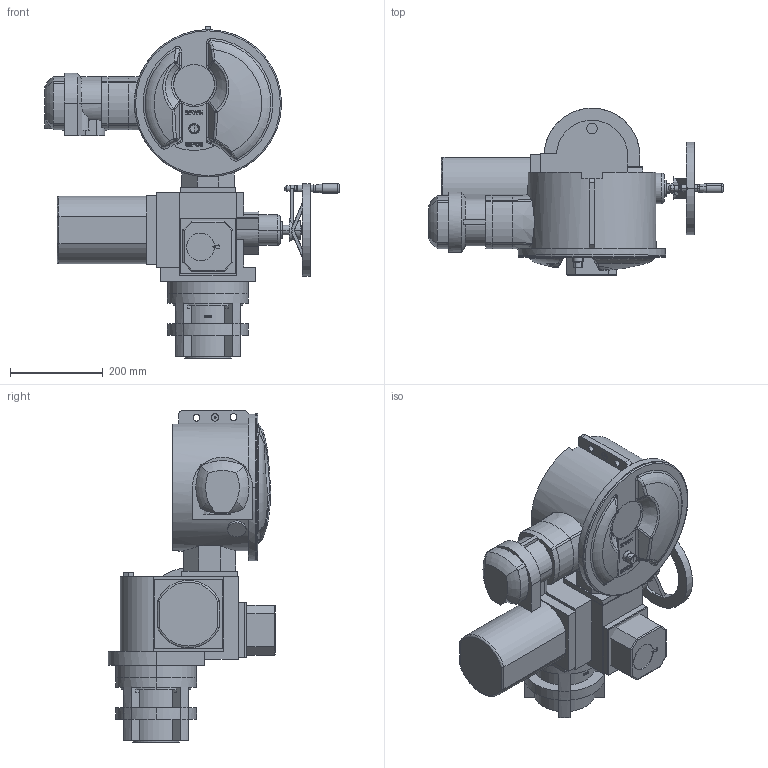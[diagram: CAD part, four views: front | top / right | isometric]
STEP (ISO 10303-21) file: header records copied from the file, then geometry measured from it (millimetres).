
FILE_DESCRIPTION(('Creo Elements/Direct Modeling STEP Export'),'2;1');
FILE_NAME('2SA7.4_Output_Speed_D_E.stp','2017-09-22T14:48:45',(''),(''),'Creo Elements/Direct Modeling STEP processor for AP214 (Solid Model)','Creo Elements/Direct Modeling 18.1B 29-Sep-2012 (C) Parametric Technology GmbH','');
FILE_SCHEMA(('AUTOMOTIVE_DESIGN { 1 0 10303 214 1 1 1 1 }'));
Length unit declared in the file: millimetre
Products named in the file (17): Shaft_A_F14_F12; Shaft_A_F14; Flange_F14_F12; Shaft_AF_F14; Select_Output_Shaft_Add_Part; Hand_Wheel_Size_3; Hand_Crank_Size_3; Select_Manual_Drive; Plug_Connection; Field_Bus; Select_E_Connection; Actuator_Size_3; E_Housing_Big; Cover_Signaling_Device; Cover_niP; Select_Cover_Pos_Recording; 2SA7.4.-.D_2SA7.4.-.E
Assembly tree (16 placements, depth 3):
  2SA7.4.-.D_2SA7.4.-.E
    Select_Cover_Pos_Recording
      Cover_niP
      Cover_Signaling_Device
    E_Housing_Big
    Actuator_Size_3
    Select_E_Connection
      Field_Bus
      Plug_Connection
    Select_Manual_Drive
      Hand_Crank_Size_3
      Hand_Wheel_Size_3
    Select_Output_Shaft_Add_Part
      Shaft_AF_F14
      Flange_F14_F12
      Shaft_A_F14
      Shaft_A_F14_F12
Bounding box: 637 x 362.5 x 717.6 mm (x, y, z)
Volume: 35576628.8 mm3; surface area: 1547181.8 mm2
Topology: 12 solids, 12 shells, 1640 faces, 4369 edges, 2864 vertices
Faces by surface type: plane 1166, cylinder 315, cone 65, bspline 58, torus 32, sphere 4
Entity records: 68729 total; most frequent: CARTESIAN_POINT 25065, ORIENTED_EDGE 8638, DIRECTION 7715, EDGE_CURVE 4319, VECTOR 2881, LINE 2881, VERTEX_POINT 2864, AXIS2_PLACEMENT_3D 2417
